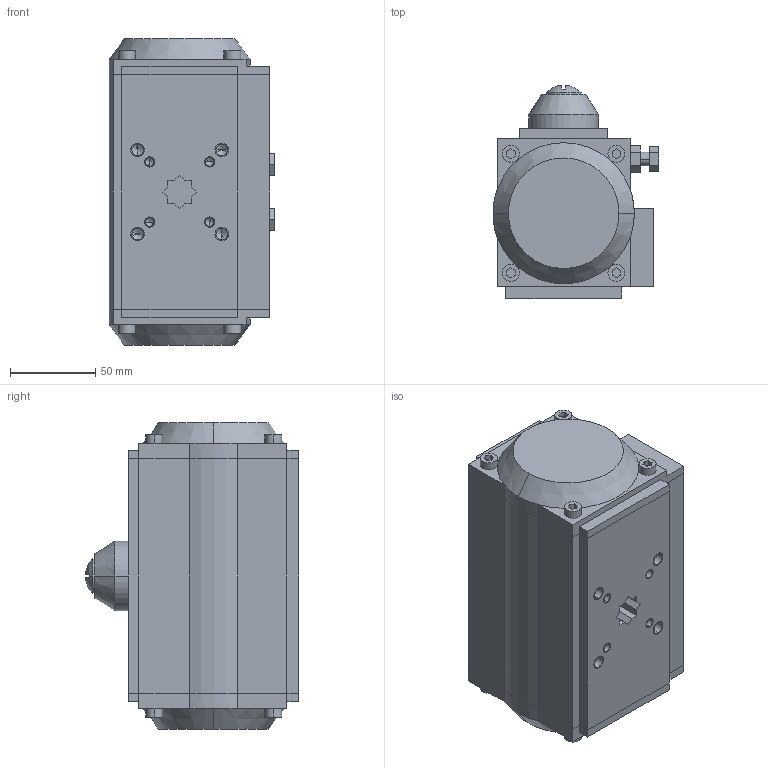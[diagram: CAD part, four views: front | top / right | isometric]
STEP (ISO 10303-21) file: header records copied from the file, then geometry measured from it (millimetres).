
FILE_DESCRIPTION((''),'2;1');
FILE_NAME('SB_PNEVMOPRIVOD_ASM','2024-01-12T',('DIMA'),(''),'PRO/ENGINEER BY PARAMETRIC TECHNOLOGY CORPORATION, 2008020','PRO/ENGINEER BY PARAMETRIC TECHNOLOGY CORPORATION, 2008020','');
FILE_SCHEMA(('CONFIG_CONTROL_DESIGN'));
Length unit declared in the file: millimetre
Products named in the file (7): KORPUS; KOLCO_18_GOST13942; KRISKA_VERX; VINT; KRISKA_LEFT; KRISKA_RIGHT; SB_PNEVMOPRIVOD_ASM
Assembly tree (6 placements, depth 2):
  SB_PNEVMOPRIVOD_ASM
    KORPUS
    KOLCO_18_GOST13942
    KRISKA_VERX
    VINT
    KRISKA_LEFT
    KRISKA_RIGHT
Bounding box: 97.5 x 125.43 x 180 mm (x, y, z)
Volume: 1390165 mm3; surface area: 133846 mm2
Topology: 6 solids, 28 shells, 422 faces, 1070 edges, 691 vertices
Faces by surface type: plane 237, cylinder 137, cone 46, sphere 2
Entity records: 12684 total; most frequent: DIRECTION 2250, CARTESIAN_POINT 2228, ORIENTED_EDGE 1972, EDGE_CURVE 1032, AXIS2_PLACEMENT_3D 787, VERTEX_POINT 691, VECTOR 676, LINE 676
